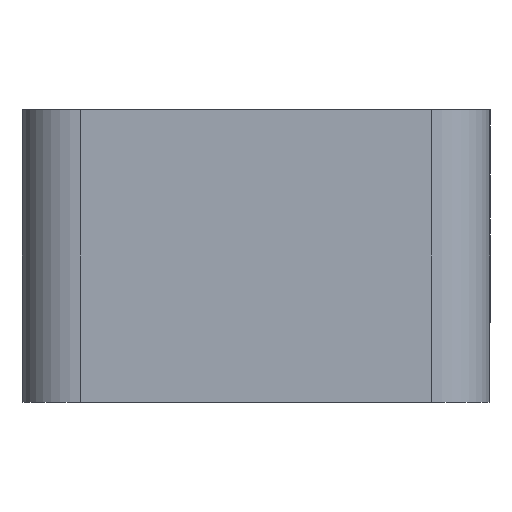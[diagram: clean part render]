
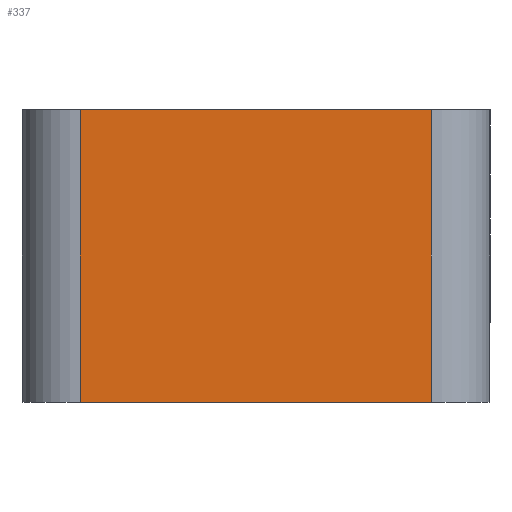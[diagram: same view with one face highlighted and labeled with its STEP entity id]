
A CAD part, left-side view. The second image highlights one B-rep face of the part: STEP entity #337.
In plain terms, the highlighted planar face has unit normal (-1, 0, 0).
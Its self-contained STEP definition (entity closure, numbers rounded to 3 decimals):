
#23=PLANE('',#383);
#34=FACE_OUTER_BOUND('',#53,.T.);
#53=EDGE_LOOP('',(#259,#260,#261,#262));
#84=LINE('',#559,#114);
#85=LINE('',#563,#115);
#86=LINE('',#565,#116);
#87=LINE('',#566,#117);
#114=VECTOR('',#449,10.);
#115=VECTOR('',#454,10.);
#116=VECTOR('',#455,10.);
#117=VECTOR('',#456,10.);
#164=VERTEX_POINT('',#556);
#165=VERTEX_POINT('',#558);
#166=VERTEX_POINT('',#562);
#167=VERTEX_POINT('',#564);
#201=EDGE_CURVE('',#164,#165,#84,.T.);
#203=EDGE_CURVE('',#166,#164,#85,.T.);
#204=EDGE_CURVE('',#167,#166,#86,.T.);
#205=EDGE_CURVE('',#165,#167,#87,.T.);
#259=ORIENTED_EDGE('',*,*,#201,.F.);
#260=ORIENTED_EDGE('',*,*,#203,.F.);
#261=ORIENTED_EDGE('',*,*,#204,.F.);
#262=ORIENTED_EDGE('',*,*,#205,.F.);
#337=ADVANCED_FACE('',(#34),#23,.T.);
#383=AXIS2_PLACEMENT_3D('',#561,#452,#453);
#449=DIRECTION('',(0.,0.,-1.));
#452=DIRECTION('center_axis',(-1.,0.,0.));
#453=DIRECTION('ref_axis',(0.,-1.,0.));
#454=DIRECTION('',(0.,-1.,0.));
#455=DIRECTION('',(0.,0.,1.));
#456=DIRECTION('',(0.,1.,0.));
#556=CARTESIAN_POINT('',(10.,80.,10.));
#558=CARTESIAN_POINT('',(10.,80.,0.));
#559=CARTESIAN_POINT('',(10.,80.,0.));
#561=CARTESIAN_POINT('Origin',(10.,94.,0.));
#562=CARTESIAN_POINT('',(10.,92.,10.));
#563=CARTESIAN_POINT('',(10.,78.,10.));
#564=CARTESIAN_POINT('',(10.,92.,0.));
#565=CARTESIAN_POINT('',(10.,92.,0.));
#566=CARTESIAN_POINT('',(10.,78.,0.));
